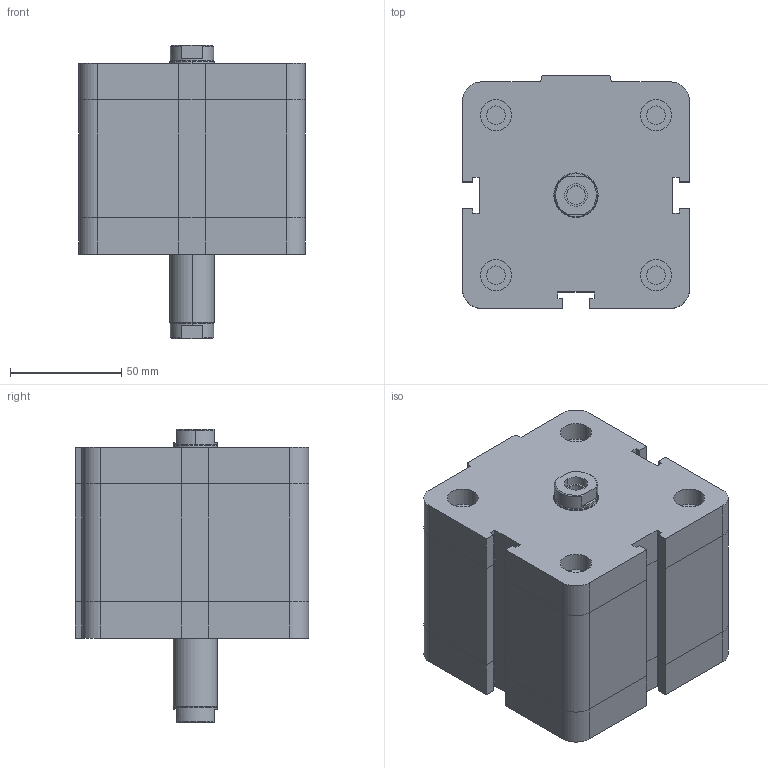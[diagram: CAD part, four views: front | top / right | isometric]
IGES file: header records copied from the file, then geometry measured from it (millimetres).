
Global section: file name: No Iges File Name specified; native system: Autodesk Inventor 2009; preprocessor: AutoDesk Inventor Iges Exporter R2009; author: maffial1; date: 20090420.200431; units: millimetre
Bounding box: 102 x 105 x 132 mm (x, y, z)
Volume: 865024 mm3; surface area: 81605.4 mm2
Topology: 2 solids, 2 shells, 202 faces, 450 edges, 274 vertices
Faces by surface type: plane 114, bspline 42, revolution 20, cylinder 18, cone 8
